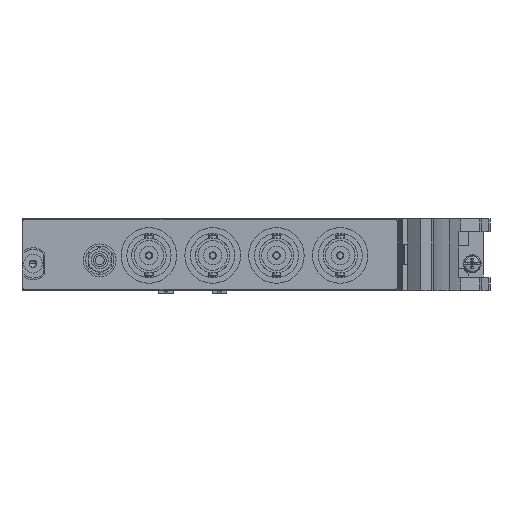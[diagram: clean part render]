
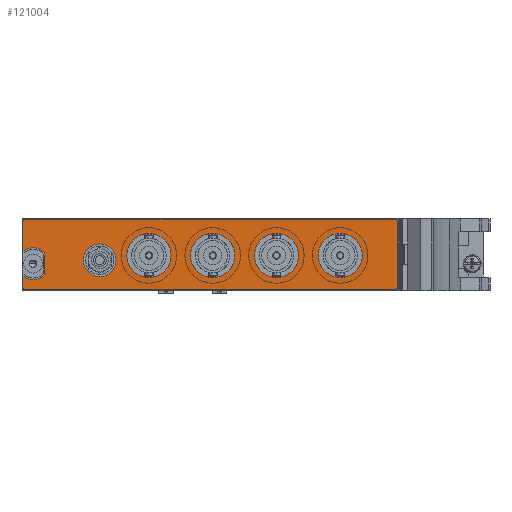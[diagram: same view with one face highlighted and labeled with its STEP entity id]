
A CAD part, left-side view. The second image highlights one B-rep face of the part: STEP entity #121004.
In plain terms, the highlighted planar face has unit normal (-1, 0, 0).
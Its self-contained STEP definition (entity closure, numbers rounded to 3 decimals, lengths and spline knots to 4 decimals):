
#30412=CARTESIAN_POINT('',(-0.2154,0.535,0.665));
#30413=DIRECTION('',(-1.,0.,0.));
#30414=DIRECTION('',(0.,0.,1.));
#30415=AXIS2_PLACEMENT_3D('',#30412,#30413,#30414);
#30417=DIRECTION('',(0.,1.,0.));
#30418=VECTOR('',#30417,4.07);
#30419=CARTESIAN_POINT('',(-0.2154,-3.535,0.685));
#30420=LINE('',#30419,#30418);
#30421=CARTESIAN_POINT('',(-0.2154,-3.535,0.665));
#30422=DIRECTION('',(-1.,0.,0.));
#30423=DIRECTION('',(0.,-1.,0.));
#30424=AXIS2_PLACEMENT_3D('',#30421,#30422,#30423);
#30426=DIRECTION('',(0.,0.,1.));
#30427=VECTOR('',#30426,0.728);
#30428=CARTESIAN_POINT('',(-0.2154,-3.555,-0.063));
#30429=LINE('',#30428,#30427);
#30430=CARTESIAN_POINT('',(-0.2154,-3.535,-0.063));
#30431=DIRECTION('',(-1.,0.,0.));
#30432=DIRECTION('',(0.,0.,-1.));
#30433=AXIS2_PLACEMENT_3D('',#30430,#30431,#30432);
#30435=DIRECTION('',(0.,-1.,0.));
#30436=VECTOR('',#30435,4.07);
#30437=CARTESIAN_POINT('',(-0.2154,0.535,-0.083));
#30438=LINE('',#30437,#30436);
#30439=CARTESIAN_POINT('',(-0.2154,0.535,-0.063));
#30440=DIRECTION('',(-1.,0.,0.));
#30441=DIRECTION('',(0.,1.,0.));
#30442=AXIS2_PLACEMENT_3D('',#30439,#30440,#30441);
#30444=DIRECTION('',(0.,0.,-1.));
#30445=VECTOR('',#30444,0.1295);
#30446=CARTESIAN_POINT('',(-0.2154,0.555,0.0665));
#30447=LINE('',#30446,#30445);
#30448=CARTESIAN_POINT('',(-0.2154,0.443,0.201));
#30449=DIRECTION('',(1.,0.,0.));
#30450=DIRECTION('',(0.,-0.737,-0.676));
#30451=AXIS2_PLACEMENT_3D('',#30448,#30449,#30450);
#30453=DIRECTION('',(0.,0.,-1.));
#30454=VECTOR('',#30453,0.2365);
#30455=CARTESIAN_POINT('',(-0.2154,0.314,0.3193));
#30456=LINE('',#30455,#30454);
#30457=CARTESIAN_POINT('',(-0.2154,0.443,0.201));
#30458=DIRECTION('',(1.,0.,0.));
#30459=DIRECTION('',(0.,0.64,0.768));
#30460=AXIS2_PLACEMENT_3D('',#30457,#30458,#30459);
#30462=DIRECTION('',(0.,0.,-1.));
#30463=VECTOR('',#30462,0.3295);
#30464=CARTESIAN_POINT('',(-0.2154,0.555,0.665));
#30465=LINE('',#30464,#30463);
#30466=CARTESIAN_POINT('',(-0.2154,-2.9286,0.2915));
#30467=DIRECTION('',(-1.,0.,0.));
#30468=DIRECTION('',(0.,0.,1.));
#30469=AXIS2_PLACEMENT_3D('',#30466,#30467,#30468);
#30471=CARTESIAN_POINT('',(-0.2154,-2.9286,0.2915));
#30472=DIRECTION('',(-1.,0.,0.));
#30473=DIRECTION('',(0.,0.,-1.));
#30474=AXIS2_PLACEMENT_3D('',#30471,#30472,#30473);
#30476=CARTESIAN_POINT('',(-0.2154,-2.2286,0.2915));
#30477=DIRECTION('',(-1.,0.,0.));
#30478=DIRECTION('',(0.,0.,1.));
#30479=AXIS2_PLACEMENT_3D('',#30476,#30477,#30478);
#30481=CARTESIAN_POINT('',(-0.2154,-2.2286,0.2915));
#30482=DIRECTION('',(-1.,0.,0.));
#30483=DIRECTION('',(0.,0.,-1.));
#30484=AXIS2_PLACEMENT_3D('',#30481,#30482,#30483);
#30486=CARTESIAN_POINT('',(-0.2154,-1.5286,0.2915));
#30487=DIRECTION('',(-1.,0.,0.));
#30488=DIRECTION('',(0.,0.,1.));
#30489=AXIS2_PLACEMENT_3D('',#30486,#30487,#30488);
#30491=CARTESIAN_POINT('',(-0.2154,-1.5286,0.2915));
#30492=DIRECTION('',(-1.,0.,0.));
#30493=DIRECTION('',(0.,0.,-1.));
#30494=AXIS2_PLACEMENT_3D('',#30491,#30492,#30493);
#30496=CARTESIAN_POINT('',(-0.2154,-0.8286,0.2915));
#30497=DIRECTION('',(-1.,0.,0.));
#30498=DIRECTION('',(0.,0.,1.));
#30499=AXIS2_PLACEMENT_3D('',#30496,#30497,#30498);
#30501=CARTESIAN_POINT('',(-0.2154,-0.8286,0.2915));
#30502=DIRECTION('',(-1.,0.,0.));
#30503=DIRECTION('',(0.,0.,-1.));
#30504=AXIS2_PLACEMENT_3D('',#30501,#30502,#30503);
#30506=CARTESIAN_POINT('',(-0.2154,-0.288,0.239));
#30507=DIRECTION('',(-1.,0.,0.));
#30508=DIRECTION('',(0.,0.,1.));
#30509=AXIS2_PLACEMENT_3D('',#30506,#30507,#30508);
#30511=CARTESIAN_POINT('',(-0.2154,-0.288,0.239));
#30512=DIRECTION('',(-1.,0.,0.));
#30513=DIRECTION('',(0.,0.,-1.));
#30514=AXIS2_PLACEMENT_3D('',#30511,#30512,#30513);
#82859=CARTESIAN_POINT('',(-0.2154,0.535,0.685));
#82860=CARTESIAN_POINT('',(-0.2154,0.555,0.665));
#82861=VERTEX_POINT('',#82859);
#82862=VERTEX_POINT('',#82860);
#82863=CARTESIAN_POINT('',(-0.2154,0.555,0.3355));
#82864=VERTEX_POINT('',#82863);
#82865=CARTESIAN_POINT('',(-0.2154,0.314,0.3193));
#82866=VERTEX_POINT('',#82865);
#82867=CARTESIAN_POINT('',(-0.2154,0.314,0.0827));
#82868=VERTEX_POINT('',#82867);
#82869=CARTESIAN_POINT('',(-0.2154,0.555,0.0665));
#82870=VERTEX_POINT('',#82869);
#82871=CARTESIAN_POINT('',(-0.2154,0.555,-0.063));
#82872=VERTEX_POINT('',#82871);
#82873=CARTESIAN_POINT('',(-0.2154,0.535,-0.083));
#82874=VERTEX_POINT('',#82873);
#82875=CARTESIAN_POINT('',(-0.2154,-3.535,-0.083));
#82876=VERTEX_POINT('',#82875);
#82877=CARTESIAN_POINT('',(-0.2154,-3.555,-0.063));
#82878=VERTEX_POINT('',#82877);
#82879=CARTESIAN_POINT('',(-0.2154,-3.555,0.665));
#82880=VERTEX_POINT('',#82879);
#82881=CARTESIAN_POINT('',(-0.2154,-3.535,0.685));
#82882=VERTEX_POINT('',#82881);
#82899=CARTESIAN_POINT('',(-0.2154,-2.9286,0.534));
#82900=CARTESIAN_POINT('',(-0.2154,-2.9286,0.049));
#82901=VERTEX_POINT('',#82899);
#82902=VERTEX_POINT('',#82900);
#82903=CARTESIAN_POINT('',(-0.2154,-2.2286,0.534));
#82904=CARTESIAN_POINT('',(-0.2154,-2.2286,0.049));
#82905=VERTEX_POINT('',#82903);
#82906=VERTEX_POINT('',#82904);
#82907=CARTESIAN_POINT('',(-0.2154,-1.5286,0.534));
#82908=CARTESIAN_POINT('',(-0.2154,-1.5286,0.049));
#82909=VERTEX_POINT('',#82907);
#82910=VERTEX_POINT('',#82908);
#82911=CARTESIAN_POINT('',(-0.2154,-0.8286,0.534));
#82912=CARTESIAN_POINT('',(-0.2154,-0.8286,0.049));
#82913=VERTEX_POINT('',#82911);
#82914=VERTEX_POINT('',#82912);
#82915=CARTESIAN_POINT('',(-0.2154,-0.288,0.419));
#82916=CARTESIAN_POINT('',(-0.2154,-0.288,0.059));
#82917=VERTEX_POINT('',#82915);
#82918=VERTEX_POINT('',#82916);
#120955=CARTESIAN_POINT('',(-0.2154,0.443,0.201));
#120956=DIRECTION('',(-1.,0.,0.));
#120957=DIRECTION('',(0.,0.,1.));
#120958=AXIS2_PLACEMENT_3D('',#120955,#120956,#120957);
#120959=PLANE('',#120958);
#120960=ORIENTED_EDGE('',*,*,#120795,.F.);
#120961=ORIENTED_EDGE('',*,*,#120810,.F.);
#120962=ORIENTED_EDGE('',*,*,#120824,.F.);
#120963=ORIENTED_EDGE('',*,*,#120838,.F.);
#120964=ORIENTED_EDGE('',*,*,#120852,.F.);
#120965=ORIENTED_EDGE('',*,*,#120866,.F.);
#120966=ORIENTED_EDGE('',*,*,#120880,.F.);
#120967=ORIENTED_EDGE('',*,*,#120894,.F.);
#120968=ORIENTED_EDGE('',*,*,#120908,.F.);
#120969=ORIENTED_EDGE('',*,*,#120922,.F.);
#120970=ORIENTED_EDGE('',*,*,#120936,.F.);
#120971=ORIENTED_EDGE('',*,*,#120949,.F.);
#120972=EDGE_LOOP('',(#120960,#120961,#120962,#120963,#120964,#120965,#120966,
#120967,#120968,#120969,#120970,#120971));
#120973=FACE_OUTER_BOUND('',#120972,.F.);
#120975=ORIENTED_EDGE('',*,*,#120974,.T.);
#120977=ORIENTED_EDGE('',*,*,#120976,.T.);
#120978=EDGE_LOOP('',(#120975,#120977));
#120979=FACE_BOUND('',#120978,.F.);
#120981=ORIENTED_EDGE('',*,*,#120980,.T.);
#120983=ORIENTED_EDGE('',*,*,#120982,.T.);
#120984=EDGE_LOOP('',(#120981,#120983));
#120985=FACE_BOUND('',#120984,.F.);
#120987=ORIENTED_EDGE('',*,*,#120986,.T.);
#120989=ORIENTED_EDGE('',*,*,#120988,.T.);
#120990=EDGE_LOOP('',(#120987,#120989));
#120991=FACE_BOUND('',#120990,.F.);
#120993=ORIENTED_EDGE('',*,*,#120992,.T.);
#120995=ORIENTED_EDGE('',*,*,#120994,.T.);
#120996=EDGE_LOOP('',(#120993,#120995));
#120997=FACE_BOUND('',#120996,.F.);
#120999=ORIENTED_EDGE('',*,*,#120998,.T.);
#121001=ORIENTED_EDGE('',*,*,#121000,.T.);
#121002=EDGE_LOOP('',(#120999,#121001));
#121003=FACE_BOUND('',#121002,.F.);
#121004=ADVANCED_FACE('',(#120973,#120979,#120985,#120991,#120997,#121003),
#120959,.T.);
#30416=CIRCLE('',#30415,0.02);
#30425=CIRCLE('',#30424,0.02);
#30434=CIRCLE('',#30433,0.02);
#30443=CIRCLE('',#30442,0.02);
#30452=CIRCLE('',#30451,0.175);
#30461=CIRCLE('',#30460,0.175);
#30470=CIRCLE('',#30469,0.2425);
#30475=CIRCLE('',#30474,0.2425);
#30480=CIRCLE('',#30479,0.2425);
#30485=CIRCLE('',#30484,0.2425);
#30490=CIRCLE('',#30489,0.2425);
#30495=CIRCLE('',#30494,0.2425);
#30500=CIRCLE('',#30499,0.2425);
#30505=CIRCLE('',#30504,0.2425);
#30510=CIRCLE('',#30509,0.18);
#30515=CIRCLE('',#30514,0.18);
#120795=EDGE_CURVE('',#82861,#82862,#30416,.T.);
#120810=EDGE_CURVE('',#82882,#82861,#30420,.T.);
#120824=EDGE_CURVE('',#82880,#82882,#30425,.T.);
#120838=EDGE_CURVE('',#82878,#82880,#30429,.T.);
#120852=EDGE_CURVE('',#82876,#82878,#30434,.T.);
#120866=EDGE_CURVE('',#82874,#82876,#30438,.T.);
#120880=EDGE_CURVE('',#82872,#82874,#30443,.T.);
#120894=EDGE_CURVE('',#82870,#82872,#30447,.T.);
#120908=EDGE_CURVE('',#82868,#82870,#30452,.T.);
#120922=EDGE_CURVE('',#82866,#82868,#30456,.T.);
#120936=EDGE_CURVE('',#82864,#82866,#30461,.T.);
#120949=EDGE_CURVE('',#82862,#82864,#30465,.T.);
#120974=EDGE_CURVE('',#82901,#82902,#30470,.T.);
#120976=EDGE_CURVE('',#82902,#82901,#30475,.T.);
#120980=EDGE_CURVE('',#82905,#82906,#30480,.T.);
#120982=EDGE_CURVE('',#82906,#82905,#30485,.T.);
#120986=EDGE_CURVE('',#82909,#82910,#30490,.T.);
#120988=EDGE_CURVE('',#82910,#82909,#30495,.T.);
#120992=EDGE_CURVE('',#82913,#82914,#30500,.T.);
#120994=EDGE_CURVE('',#82914,#82913,#30505,.T.);
#120998=EDGE_CURVE('',#82917,#82918,#30510,.T.);
#121000=EDGE_CURVE('',#82918,#82917,#30515,.T.);
